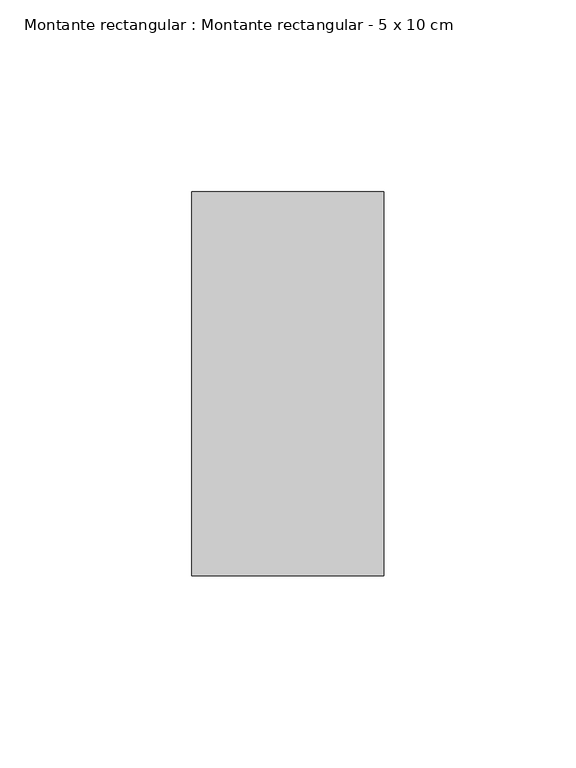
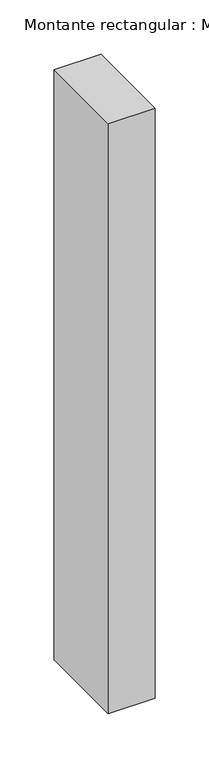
"""IFC4 building model written with IfcOpenShell, lengths in millimetres: member geometry, Montante rectangular : Montante rectangular - 5 x 10 cm."""

import ifcopenshell
import ifcopenshell.guid

model = None  # the IFC model being written
_history = None  # IfcOwnerHistory: only IFC2X3 demands one
_inside = {}  # id of a spatial element -> (the spatial element, [elements in it])
_under = {}  # id of a project, library or spatial element -> (it, [spatial elements below it])
_declared = {}  # id of a project -> (the project, [libraries it declares])
_typed = {}  # id of a type object -> (the type object, [elements of that type])
_made_of = {}  # id of a material, layer set ... -> (it, [elements and type objects made of it])


def new_model(schema):
    """Start an empty IFC model of exactly this schema.

    Asked for "IFC4X3", IfcOpenShell would pick the latest addendum, in which some entities
    have other attributes; the version numbers below select the first issue.
    IFC2X3 requires an IfcOwnerHistory on every rooted entity: one is made here for all.
    """
    global model, _history
    if schema == "IFC4X3":
        model = ifcopenshell.file(schema_version=(4, 3, 0, 0))
    else:
        model = ifcopenshell.file(schema=schema)
    _inside.clear()
    _under.clear()
    _declared.clear()
    _typed.clear()
    _made_of.clear()
    _history = None
    if model.schema == "IFC2X3":
        org = make("IfcOrganization", Name="unknown")
        user = make(
            "IfcPersonAndOrganization",
            ThePerson=make("IfcPerson", FamilyName="unknown"),
            TheOrganization=org,
        )
        app = make(
            "IfcApplication",
            ApplicationDeveloper=org,
            Version="unknown",
            ApplicationFullName="unknown",
            ApplicationIdentifier="unknown",
        )
        _history = make(
            "IfcOwnerHistory",
            OwningUser=user,
            OwningApplication=app,
            ChangeAction="ADDED",
            CreationDate=0,
        )
    return model


def make(cls, **values):
    """One entity of the class cls with the attributes given. An attribute that is None is left unset."""
    return model.create_entity(
        cls, **{name: value for name, value in values.items() if value is not None}
    )


def rooted(cls, **values):
    """An entity with a GlobalId (a new one), such as an element, a storey or a relation."""
    return make(cls, GlobalId=ifcopenshell.guid.new(), OwnerHistory=_history, **values)


def si_unit(unit_type, name, prefix=None):
    """IfcSIUnit, for example si_unit("LENGTHUNIT", "METRE", prefix="MILLI")."""
    return make("IfcSIUnit", UnitType=unit_type, Prefix=prefix, Name=name)


def assignment(units):
    """IfcUnitAssignment: the units of a project."""
    return None if units is None else make("IfcUnitAssignment", Units=units)


def point(xyz):
    """IfcCartesianPoint."""
    return None if xyz is None else make("IfcCartesianPoint", Coordinates=xyz)


def direction(xyz):
    """IfcDirection."""
    return None if xyz is None else make("IfcDirection", DirectionRatios=xyz)


def frame(location, z_axis=None, x_axis=None):
    """IfcAxis2Placement3D, a coordinate frame: its origin and axes. An axis left out is left unset."""
    return make(
        "IfcAxis2Placement3D",
        Location=point(location),
        Axis=direction(z_axis),
        RefDirection=direction(x_axis),
    )


def origin():
    """The frame at (0, 0, 0) with its axes left unset."""
    return frame((0.0, 0.0, 0.0))


def place(relative_to, where):
    """IfcLocalPlacement: puts the frame where relative to a parent placement (None: the world)."""
    return make(
        "IfcLocalPlacement", PlacementRelTo=relative_to, RelativePlacement=where
    )


def context(
    kind, dimensions, precision=None, world=None, true_north=None, identifier=None
):
    """IfcGeometricRepresentationContext, for example the 3D "Model" context."""
    return make(
        "IfcGeometricRepresentationContext",
        ContextIdentifier=identifier,
        ContextType=kind,
        CoordinateSpaceDimension=dimensions,
        Precision=precision,
        WorldCoordinateSystem=world,
        TrueNorth=true_north,
    )


def project(units=None, contexts=None):
    """IfcProject with its units and contexts."""
    return rooted(
        "IfcProject",
        Name="project",
        RepresentationContexts=contexts,
        UnitsInContext=assignment(units),
    )


def spatial(cls, under=None, at=None, **own):
    """A site, building, storey or space (cls), placed at a placement, below another one or the project."""
    s = rooted(cls, ObjectPlacement=at, **own)
    if under is not None:
        _under.setdefault(under.id(), (under, []))[1].append(s)
    return s


def polyline(points):
    """IfcPolyline through the points."""
    return make("IfcPolyline", Points=[point(p) for p in points])


def outline(outer, holes=None, kind="AREA"):
    """IfcArbitraryClosedProfileDef: a profile drawn as a closed curve; with holes, ...WithVoids."""
    if holes is None:
        return make("IfcArbitraryClosedProfileDef", ProfileType=kind, OuterCurve=outer)
    return make(
        "IfcArbitraryProfileDefWithVoids",
        ProfileType=kind,
        OuterCurve=outer,
        InnerCurves=holes,
    )


def extrude(swept, where, along, depth):
    """IfcExtrudedAreaSolid: the profile swept, set in the frame where, extruded along a direction by depth."""
    return make(
        "IfcExtrudedAreaSolid",
        SweptArea=swept,
        Position=where,
        ExtrudedDirection=direction(along),
        Depth=depth,
    )


def shape(context_of_items, identifier, shape_type, items):
    """IfcShapeRepresentation: the items that make up one representation, for example the "Body"."""
    return make(
        "IfcShapeRepresentation",
        ContextOfItems=context_of_items,
        RepresentationIdentifier=identifier,
        RepresentationType=shape_type,
        Items=items,
    )


def source(mapping_origin, context_of_items, identifier, shape_type, items):
    """IfcRepresentationMap: a shape defined once, which mapped items show again and again."""
    return make(
        "IfcRepresentationMap",
        MappingOrigin=mapping_origin,
        MappedRepresentation=shape(context_of_items, identifier, shape_type, items),
    )


def transform(
    local_origin,
    x_axis=None,
    y_axis=None,
    z_axis=None,
    scale=None,
    scale2=None,
    scale3=None,
    uniform=True,
):
    """IfcCartesianTransformationOperator3D, or its non-uniform kind. x_axis, y_axis, z_axis: its Axis1, 2, 3."""
    if uniform:
        return make(
            "IfcCartesianTransformationOperator3D",
            Axis1=direction(x_axis),
            Axis2=direction(y_axis),
            LocalOrigin=point(local_origin),
            Scale=scale,
            Axis3=direction(z_axis),
        )
    return make(
        "IfcCartesianTransformationOperator3DnonUniform",
        Axis1=direction(x_axis),
        Axis2=direction(y_axis),
        LocalOrigin=point(local_origin),
        Scale=scale,
        Axis3=direction(z_axis),
        Scale2=scale2,
        Scale3=scale3,
    )


def mapped(mapping_source, mapping_target):
    """IfcMappedItem: shows the shape of a source again, moved by a transform."""
    return make(
        "IfcMappedItem", MappingSource=mapping_source, MappingTarget=mapping_target
    )


def made_of(thing, what):
    """Note that an element or type object is made of a material, layer set ...; save() writes the relation."""
    if what is not None:
        _made_of.setdefault(what.id(), (what, []))[1].append(thing)
    return thing


def element(
    cls,
    number,
    at=None,
    inside=None,
    cuts=None,
    type_object=None,
    material=None,
    context=None,
    identifier="Body",
    shape_type=None,
    held_by="IfcProductDefinitionShape",
    body=None,
    shapes=None,
    **own,
):
    """One element of the class cls, such as IfcWall. Its Tag is "e" and its number.

    at: its placement. inside: the storey or other place that contains it. cuts: it is an
    opening in that element (IfcRelVoidsElement). A single representation is given by context,
    identifier, shape_type and body (its items); several are given by shapes. held_by: the class
    of the entity that holds the representations. save() writes the other relations.
    """
    e = rooted(cls, Tag="e%d" % number, ObjectPlacement=at, **own)
    if body is not None:
        shapes = [shape(context, identifier, shape_type, body)]
    if shapes is not None:
        e.Representation = make(held_by, Representations=shapes)
    if inside is not None:
        _inside.setdefault(inside.id(), (inside, []))[1].append(e)
    if cuts is not None:
        rooted(
            "IfcRelVoidsElement", RelatingBuildingElement=cuts, RelatedOpeningElement=e
        )
    if type_object is not None:
        _typed.setdefault(type_object.id(), (type_object, []))[1].append(e)
    return made_of(e, material)


def aggregate(whole, parts):
    """IfcRelAggregates: a whole, such as a stair, and the parts it consists of."""
    return rooted("IfcRelAggregates", RelatingObject=whole, RelatedObjects=parts)


def save(model, path):
    """Write the relations noted so far, then the file.

    IfcRelAggregates (storeys below a building ...), IfcRelContainedInSpatialStructure (elements
    in a storey), IfcRelDefinesByType, IfcRelAssociatesMaterial and IfcRelDeclares: one each for
    every whole, place, type object, material and project.
    """
    for whole, parts in _under.values():
        aggregate(whole, parts)
    for where, things in _inside.values():
        rooted(
            "IfcRelContainedInSpatialStructure",
            RelatedElements=things,
            RelatingStructure=where,
        )
    for kind, things in _typed.values():
        rooted("IfcRelDefinesByType", RelatedObjects=things, RelatingType=kind)
    for what, things in _made_of.values():
        rooted("IfcRelAssociatesMaterial", RelatedObjects=things, RelatingMaterial=what)
    for by, libraries in _declared.values():
        rooted("IfcRelDeclares", RelatingContext=by, RelatedDefinitions=libraries)
    model.write(path)


def montante_rectangular_montante_rectangular_5_x_10_cm_c12c0c57(model_context):
    return source(origin(), model_context, "Body", "SweptSolid", [
        extrude(outline(polyline([(25.0, 50.0), (25.0, -50.0), (-25.0, -50.0), (-25.0, 50.0), (25.0, 50.0)])), frame((0.0, 0.0, -665.0), z_axis=(0.0, 0.0, 1.0), x_axis=(1.0, 0.0, 0.0)), (0.0, 0.0, 1.0), 665.0),
    ])


if __name__ == "__main__":
    model = new_model("IFC4")
    model_context = context("Model", 3, world=origin())
    ifc_project = project(units=[si_unit("LENGTHUNIT", "METRE", prefix="MILLI")], contexts=[model_context])
    site = spatial("IfcSite", under=ifc_project)
    building = spatial("IfcBuilding", under=site)
    placement = place(None, origin())
    montante_rectangular_montante_rectangular_5_x_10_cm_shape = montante_rectangular_montante_rectangular_5_x_10_cm_c12c0c57(model_context)
    element("IfcMember", 1, ObjectType="Montante rectangular : Montante rectangular - 5 x 10 cm", at=placement, inside=building, context=model_context, shape_type="MappedRepresentation", body=[
        mapped(montante_rectangular_montante_rectangular_5_x_10_cm_shape, transform((0.0, 0.0, 0.0), x_axis=(1.0, 0.0, 0.0), y_axis=(0.0, 1.0, 0.0), z_axis=(0.0, 0.0, 1.0))),
    ])
    save(model, "model.ifc")
